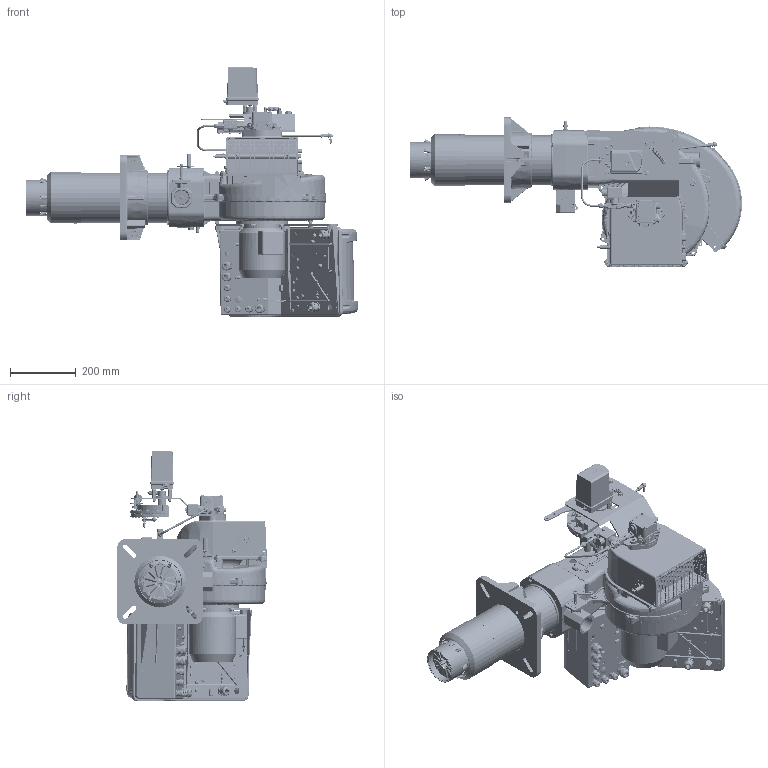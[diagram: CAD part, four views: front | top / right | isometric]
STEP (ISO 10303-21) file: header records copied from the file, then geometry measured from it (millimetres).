
FILE_DESCRIPTION (( 'STEP AP203' ), '1' );
FILE_NAME ('56450010-prt.STEP', '2020-02-27T07:44:15', ( '' ), ( '' ), 'SwSTEP 2.0', 'SolidWorks 2018', '' );
FILE_SCHEMA (( 'CONFIG_CONTROL_DESIGN' ));
Length unit declared in the file: millimetre
Products named in the file (1): 56450010-prt
Bounding box: 1009.77 x 454.26 x 760.37 mm (x, y, z)
Surface area: 5246059.9 mm2 (no closed solid volume)
Topology: 0 solids, 423 shells, 22688 faces, 58551 edges, 36795 vertices
Faces by surface type: plane 9539, bspline 6030, cylinder 5073, cone 1629, torus 310, sphere 107
Full cylindrical faces by diameter (mm): 1 x7, 1.014 x3, 1.2 x2, 1.5 x7, 1.8 x1, 2 x3, 2.29 x3, 2.39 x3, 2.4 x6, 2.5 x8, 2.6 x1, 2.8 x2, 2.88 x1, 2.9 x2, 3 x29, 3.2 x3, 3.242 x3, 3.3 x22, 3.4 x1, 3.5 x13, 3.6 x8, 3.7 x10, 3.8 x15, 3.82 x2, 3.9 x2, 3.95 x6, 4 x31, 4.1 x3, 4.2 x50, 4.3 x11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
Entity records: 1114583 total; most frequent: CARTESIAN_POINT 634529, ORIENTED_EDGE 108129, DIRECTION 76351, EDGE_CURVE 54781, VERTEX_POINT 35915, EDGE_LOOP 27263, VECTOR 26255, LINE 26255
